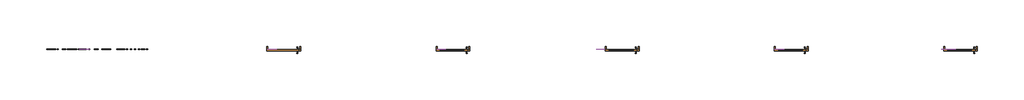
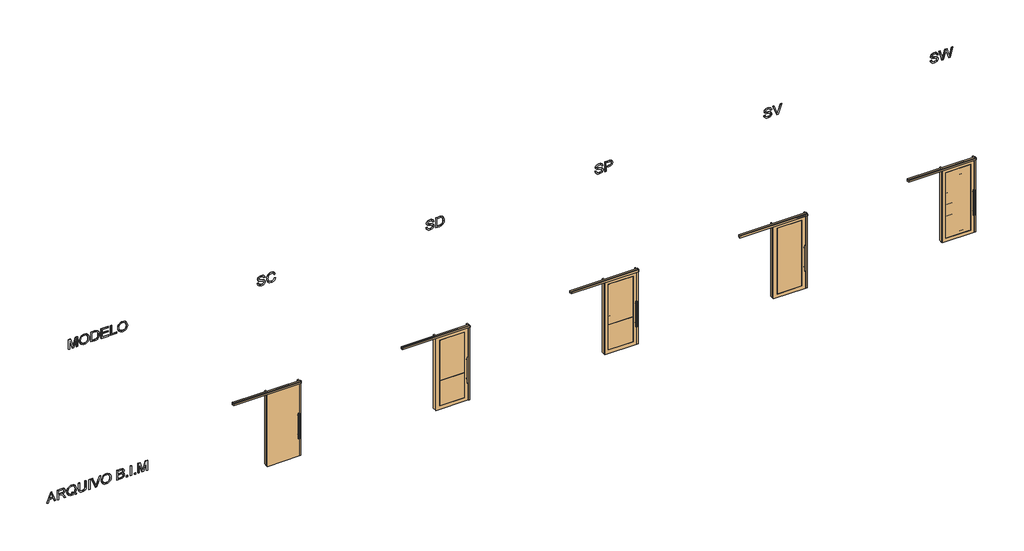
# One storey: 7 proxies, 5 doors.
"""IFC4 building model written with IfcOpenShell, lengths in millimetres."""

from ifc_helpers import new_model, si_unit, frame, origin, place, context, project, spatial, polyline, outline, extrude, transform, mapped, element, save
from components import sc_cab2c7cc, sd_dbddfbeb, sv_f2a23781, sw_5507271e, sw_ca81cf6f

model = new_model("IFC4")

# Units and contexts
model_context = context("Model", 3, world=origin())
ifc_project = project(units=[si_unit("LENGTHUNIT", "METRE", prefix="MILLI")], contexts=[model_context])

# Site, building, storey
site = spatial("IfcSite", under=ifc_project)
building = spatial("IfcBuilding", under=site)
storey = spatial("IfcBuildingStorey", under=building, Name="07 - Marelli - Planta Baixa - Porta de Correr (01 Folha)", Elevation=72000.0)

# Proxies
placement = place(None, origin())
element("IfcBuildingElementProxy", 1, Name="300mm Arial", ObjectType="300mm Arial", at=placement, inside=storey, context=model_context, shape_type="SweptSolid", body=[
    extrude(outline(polyline([(73100.0, -7636.3146377), (73100.0, -7596.5098058), (73194.1777908, -7562.076051), (73194.1777908, -7437.9526659), (73100.0, -7403.4453347), (73100.0, -7363.6405028), (73401.3689304, -7483.9379153), (73401.3689304, -7516.0172252), (73100.0, -7636.3146377)]), holes=[polyline([(73231.8489071, -7548.243688), (73312.415064, -7518.739552), (73363.6978141, -7499.9775703), (73305.9403409, -7478.8611437), (73231.8489071, -7451.7114525), (73231.8489071, -7548.243688)])]), frame((0.0, 8778.3159498, 0.0), z_axis=(0.0, 1.0, 0.0), x_axis=(0.0, 0.0, 1.0)), (0.0, 0.0, 1.0), 10.0),
    extrude(outline(polyline([(73100.0, -7323.3942126), (73100.0, -7285.7230963), (73231.8489071, -7285.7230963), (73231.8489071, -7240.2528817), (73230.5245319, -7218.4006911), (73223.350833, -7200.484838), (73203.816299, -7180.582422), (73162.4663628, -7152.2555084), (73100.0, -7113.0392877), (73100.0, -7069.2613303), (73181.6698029, -7119.5140108), (73220.4445652, -7150.0482164), (73236.5577966, -7171.4589486), (73246.5457928, -7134.3488523), (73254.5610217, -7119.9669655), (73264.5904046, -7108.3671864), (73289.2017101, -7093.0540983), (73318.8897871, -7087.9497357), (73342.7561316, -7091.0307474), (73364.4703663, -7100.2737825), (73381.9815493, -7114.6763626), (73393.2387384, -7133.2360093), (73399.3363824, -7158.629064), (73401.3689304, -7193.5318683), (73401.3689304, -7323.3942126), (73100.0, -7323.3942126)]), holes=[polyline([(73269.5200234, -7285.7230963), (73363.6978141, -7285.7230963), (73363.6978141, -7191.9131875), (73360.4420585, -7162.1055488), (73350.6747915, -7141.5501423), (73335.8675412, -7129.6031746), (73317.4918355, -7125.620852), (73304.1837044, -7127.7085823), (73291.9240369, -7133.9717732), (73281.7888879, -7144.254075), (73274.8543123, -7158.3991377), (73270.8535956, -7177.1887106), (73269.5200234, -7201.404543), (73269.5200234, -7285.7230963)])]), frame((0.0, 8778.3159498, 0.0), z_axis=(0.0, 1.0, 0.0), x_axis=(0.0, 0.0, 1.0)), (0.0, 0.0, 1.0), 10.0),
    extrude(outline(polyline([(73136.1260119, -6795.6307023), (73159.6520655, -6777.1814202), (73186.9673037, -6764.0664271), (73218.0349382, -6756.2305406), (73252.8181808, -6753.6185784), (73294.6463636, -6757.9227978), (73331.9863862, -6770.8354558), (73363.1827793, -6791.9610794), (73386.5800742, -6820.9041954), (73401.2033836, -6855.7702114), (73406.07782, -6894.6645354), (73401.3137481, -6933.2553567), (73387.0215326, -6967.9466288), (73363.6150407, -6996.93573), (73331.5081396, -7018.4200386), (73293.055274, -7031.7189727), (73250.6108888, -7036.1519507), (73208.2032918, -7031.7097756), (73170.3022493, -7018.3832504), (73138.6460036, -6996.8161684), (73114.9727972, -6967.6523232), (73100.2115321, -6932.8322924), (73095.2911105, -6894.2966534), (73099.5585416, -6855.9449554), (73112.360835, -6821.0881364), (73091.52032, -6790.1308665), (73077.1177399, -6759.063232), (73104.7088895, -6748.9096889), (73117.5295771, -6771.2953083), (73136.1260119, -6795.6307023)]), holes=[polyline([(73186.2315397, -6883.9223811), (73157.3895912, -6893.6344658), (73150.712533, -6873.2721974), (73140.6877487, -6853.9767867), (73134.8936072, -6873.6032912), (73132.9622268, -6894.5173826), (73134.8637168, -6916.2385151), (73140.568187, -6935.9316982), (73150.0756373, -6953.5969318), (73163.3860678, -6969.2342158), (73180.251158, -6982.0296115), (73200.4225876, -6991.1691798), (73223.9003567, -6996.6529208), (73250.6844652, -6998.4808344), (73278.1859436, -6996.6322274), (73302.0499888, -6991.0864063), (73322.2766007, -6981.8433712), (73338.8657795, -6968.903122), (73351.7899338, -6953.1577726), (73361.0214726, -6935.4994369), (73366.5603959, -6915.9281147), (73368.4067037, -6894.4438062), (73364.7554749, -6865.9605427), (73353.8017885, -6840.4019411), (73336.2354232, -6819.2027411), (73312.7461578, -6803.7976826), (73284.0605592, -6794.4166917), (73250.9051944, -6791.2896947), (73221.7321522, -6793.5015852), (73196.4586591, -6800.1372567), (73175.0847152, -6811.1967092), (73157.6103204, -6826.6799427), (73174.2569807, -6852.2477413), (73186.2315397, -6883.9223811)])]), frame((0.0, 8778.3159498, 0.0), z_axis=(0.0, 1.0, 0.0), x_axis=(0.0, 0.0, 1.0)), (0.0, 0.0, 1.0), 10.0),
    extrude(outline(polyline([(73401.3689304, -6499.3385434), (73228.8322747, -6499.3385434), (73181.6698029, -6504.1026152), (73164.9311721, -6510.057705), (73152.7542781, -6518.3948307), (73144.0952556, -6529.5278596), (73137.9102396, -6543.8706589), (73132.9622268, -6582.1855687), (73135.4638243, -6606.3554158), (73142.968617, -6626.4785609), (73155.0811317, -6641.9112106), (73171.4058953, -6652.0095714), (73194.9779341, -6657.5829836), (73228.8322747, -6659.4407877), (73401.3689304, -6659.4407877), (73401.3689304, -6697.111904), (73227.5078995, -6697.111904), (73184.7324205, -6694.2516215), (73152.0553023, -6685.6707739), (73127.6923172, -6670.4036711), (73109.8592375, -6647.4846228), (73098.9331422, -6616.904432), (73095.2911105, -6578.6539015), (73099.4757682, -6539.5480454), (73112.0297412, -6508.7563224), (73131.2515755, -6486.2235502), (73155.4398167, -6471.8945465), (73186.7925597, -6464.2242069), (73227.5078995, -6461.6674271), (73401.3689304, -6461.6674271), (73401.3689304, -6499.3385434)])), frame((0.0, 8778.3159498, 0.0), z_axis=(0.0, 1.0, 0.0), x_axis=(0.0, 0.0, 1.0)), (0.0, 0.0, 1.0), 10.0),
    extrude(outline(polyline([(-6353.3629677, 8778.3159498), (-6391.034084, 8778.3159498), (-6391.034084, 8788.3159498), (-6353.3629677, 8788.3159498), (-6353.3629677, 8778.3159498)])), frame((0.0, 0.0, 73100.0), z_axis=(0.0, 0.0, 1.0), x_axis=(1.0, 0.0, 0.0)), (0.0, 0.0, 1.0), 301.3689304),
    extrude(outline(polyline([(73100.0, -6188.9932922), (73100.0, -6150.0713771), (73401.3689304, -6035.2186183), (73401.3689304, -6075.5384849), (73184.2449769, -6156.0310655), (73135.3166715, -6172.0707205), (73184.2449769, -6188.3311046), (73401.3689304, -6268.602956), (73401.3689304, -6308.9228227), (73100.0, -6188.9932922)])), frame((0.0, 8778.3159498, 0.0), z_axis=(0.0, 1.0, 0.0), x_axis=(0.0, 0.0, 1.0)), (0.0, 0.0, 1.0), 10.0),
    extrude(outline(polyline([(73246.7113397, -6014.3229209), (73208.1665036, -6010.0187016), (73171.7002009, -5997.1060436), (73140.007167, -5975.8424642), (73115.7821376, -5946.485481), (73100.4138672, -5910.8377157), (73095.2911105, -5870.70179), (73099.9264236, -5832.892718), (73113.832363, -5797.7507904), (73136.7514113, -5767.7868019), (73168.4260511, -5745.5115471), (73206.8881137, -5731.6883811), (73250.1694304, -5727.0806591), (73292.8805301, -5731.4584548), (73330.8091638, -5744.5918421), (73362.4286213, -5766.0761506), (73386.2121922, -5795.5067102), (73401.1114131, -5830.9521404), (73406.07782, -5870.4810608), (73403.4336681, -5900.7715446), (73395.5012126, -5928.1465636), (73382.2804534, -5952.6061177), (73363.7713905, -5974.1502071), (73340.5902263, -5991.7257694), (73313.3531631, -6004.2797425), (73282.0602009, -6011.8121263), (73246.7113397, -6014.3229209)]), holes=[polyline([(73246.3434577, -5976.6518046), (73276.8799625, -5974.6882345), (73302.7121764, -5968.797524), (73323.8400992, -5958.9796733), (73340.263731, -5945.2346822), (73352.5762816, -5928.7673644), (73361.3709605, -5910.7825334), (73366.6477679, -5891.2801891), (73368.4067037, -5870.2603316), (73364.7554749, -5841.0964864), (73353.8017885, -5814.9676677), (73336.2078321, -5793.3086153), (73312.6357932, -5777.5540688), (73283.8122389, -5767.9523488), (73250.463736, -5764.7517754), (73223.9256486, -5766.6210758), (73200.5973316, -5772.228977), (73180.478785, -5781.5754789), (73163.5700088, -5794.6605816), (73150.1791041, -5810.642755), (73140.6141723, -5828.6804691), (73134.8752131, -5848.7737238), (73132.9622268, -5870.9225192), (73134.856819, -5892.6988341), (73140.5405959, -5912.557564), (73150.0135572, -5930.4987091), (73163.2757032, -5946.5222692), (73179.8349915, -5959.703941), (73199.19938, -5969.1194208), (73221.3688687, -5974.7687087), (73246.3434577, -5976.6518046)])]), frame((0.0, 8778.3159498, 0.0), z_axis=(0.0, 1.0, 0.0), x_axis=(0.0, 0.0, 1.0)), (0.0, 0.0, 1.0), 10.0),
    extrude(outline(polyline([(73100.0, -5557.5606357), (73100.0, -5443.4436408), (73105.1871361, -5395.1407348), (73111.6066769, -5377.10532), (73120.4910271, -5362.3624491), (73132.7598917, -5350.3235108), (73149.3329756, -5340.399894), (73168.8215242, -5333.7504269), (73189.8367832, -5331.5339379), (73215.055094, -5334.7804965), (73236.7049494, -5344.5201723), (73253.6643094, -5360.2931129), (73264.8111338, -5381.6394656), (73276.5557665, -5363.7695977), (73291.4825785, -5351.0684718), (73308.543106, -5343.4809057), (73326.6888854, -5340.951717), (73346.4073604, -5343.9591523), (73365.2429185, -5352.9814582), (73381.2549824, -5367.3104619), (73392.5029744, -5386.2379906), (73399.1524414, -5410.9320695), (73401.3689304, -5442.560724), (73401.3689304, -5557.5606357), (73100.0, -5557.5606357)]), holes=[polyline([(73278.9378025, -5519.8895194), (73363.6978141, -5519.8895194), (73363.6978141, -5456.3195106), (73359.7614768, -5407.9062401), (73354.1604734, -5395.4166463), (73345.230138, -5386.2012024), (73333.7890079, -5380.5174255), (73320.6556207, -5378.6228333), (73307.1267603, -5380.6553813), (73296.1178916, -5386.7530254), (73287.7577733, -5396.8605832), (73282.175164, -5410.9228724), (73278.9378025, -5451.0955863), (73278.9378025, -5519.8895194)]), polyline([(73137.6711163, -5519.8895194), (73241.2666861, -5519.8895194), (73241.2666861, -5446.3131204), (73240.0066903, -5419.4853259), (73236.2267028, -5399.776048), (73229.3381125, -5385.8609115), (73218.752308, -5376.4155413), (73205.2142506, -5371.007676), (73189.4689012, -5369.2050542), (73175.9124497, -5370.7409615), (73164.0850436, -5375.3486835), (73147.3464128, -5391.0204565), (73139.1426443, -5414.6752688), (73137.6711163, -5442.6343004), (73137.6711163, -5519.8895194)])]), frame((0.0, 8778.3159498, 0.0), z_axis=(0.0, 1.0, 0.0), x_axis=(0.0, 0.0, 1.0)), (0.0, 0.0, 1.0), 10.0),
    extrude(outline(polyline([(-5237.3561471, 8778.3159498), (-5275.0272634, 8778.3159498), (-5275.0272634, 8788.3159498), (-5237.3561471, 8788.3159498), (-5237.3561471, 8778.3159498)])), frame((0.0, 0.0, 73100.0), z_axis=(0.0, 0.0, 1.0), x_axis=(1.0, 0.0, 0.0)), (0.0, 0.0, 1.0), 37.6711163),
    extrude(outline(polyline([(-5119.6339087, 8778.3159498), (-5157.305025, 8778.3159498), (-5157.305025, 8788.3159498), (-5119.6339087, 8788.3159498), (-5119.6339087, 8778.3159498)])), frame((0.0, 0.0, 73100.0), z_axis=(0.0, 0.0, 1.0), x_axis=(1.0, 0.0, 0.0)), (0.0, 0.0, 1.0), 301.3689304),
    extrude(outline(polyline([(-5001.9116702, 8778.3159498), (-5039.5827865, 8778.3159498), (-5039.5827865, 8788.3159498), (-5001.9116702, 8788.3159498), (-5001.9116702, 8778.3159498)])), frame((0.0, 0.0, 73100.0), z_axis=(0.0, 0.0, 1.0), x_axis=(1.0, 0.0, 0.0)), (0.0, 0.0, 1.0), 37.6711163),
    extrude(outline(polyline([(73100.0, -4926.5694376), (73100.0, -4888.8983213), (73363.6978141, -4888.8983213), (73100.0, -4813.1882067), (73100.0, -4762.1261857), (73363.6978141, -4686.4160711), (73100.0, -4686.4160711), (73100.0, -4648.7449548), (73401.3689304, -4648.7449548), (73401.3689304, -4713.5657624), (73192.6326864, -4774.1927152), (73144.5872978, -4787.6571962), (73188.9538664, -4800.0916076), (73401.3689304, -4861.74863), (73401.3689304, -4926.5694376), (73100.0, -4926.5694376)])), frame((0.0, 8778.3159498, 0.0), z_axis=(0.0, 1.0, 0.0), x_axis=(0.0, 0.0, 1.0)), (0.0, 0.0, 1.0), 10.0),
])
element("IfcBuildingElementProxy", 2, Name="300mm Arial", ObjectType="300mm Arial", at=placement, inside=storey, context=model_context, shape_type="SweptSolid", body=[
    extrude(outline(polyline([(77700.0, -6993.7719449), (77700.0, -6956.1008286), (77963.6978141, -6956.1008286), (77700.0, -6880.390714), (77700.0, -6829.328693), (77963.6978141, -6753.6185784), (77700.0, -6753.6185784), (77700.0, -6715.9474621), (78001.3689304, -6715.9474621), (78001.3689304, -6780.7682697), (77792.6326864, -6841.3952225), (77744.5872978, -6854.8597035), (77788.9538664, -6867.2941149), (78001.3689304, -6928.9511373), (78001.3689304, -6993.7719449), (77700.0, -6993.7719449)])), frame((0.0, 8778.3159498, 0.0), z_axis=(0.0, 1.0, 0.0), x_axis=(0.0, 0.0, 1.0)), (0.0, 0.0, 1.0), 10.0),
    extrude(outline(polyline([(77846.7113397, -6664.1496772), (77808.1665036, -6659.8454579), (77771.7002009, -6646.9327998), (77740.007167, -6625.6692205), (77715.7821376, -6596.3122373), (77700.4138672, -6560.664472), (77695.2911105, -6520.5285463), (77699.9264236, -6482.7194742), (77713.832363, -6447.5775466), (77736.7514113, -6417.6135581), (77768.4260511, -6395.3383033), (77806.8881137, -6381.5151374), (77850.1694304, -6376.9074154), (77892.8805301, -6381.2852111), (77930.8091638, -6394.4185983), (77962.4286213, -6415.9029069), (77986.2121922, -6445.3334665), (78001.1114131, -6480.7788967), (78006.07782, -6520.3078171), (78003.4336681, -6550.5983009), (77995.5012126, -6577.9733198), (77982.2804534, -6602.432874), (77963.7713905, -6623.9769633), (77940.5902263, -6641.5525257), (77913.3531631, -6654.1064987), (77882.0602009, -6661.6388826), (77846.7113397, -6664.1496772)]), holes=[polyline([(77846.3434577, -6626.4785609), (77876.8799625, -6624.5149908), (77902.7121764, -6618.6242803), (77923.8400992, -6608.8064296), (77940.263731, -6595.0614385), (77952.5762816, -6578.5941207), (77961.3709605, -6560.6092897), (77966.6477679, -6541.1069454), (77968.4067037, -6520.0870879), (77964.7554749, -6490.9232427), (77953.8017885, -6464.794424), (77936.2078321, -6443.1353716), (77912.6357932, -6427.3808251), (77883.8122389, -6417.779105), (77850.463736, -6414.5785317), (77823.9256486, -6416.4478321), (77800.5973316, -6422.0557332), (77780.478785, -6431.4022352), (77763.5700088, -6444.4873379), (77750.1791041, -6460.4695113), (77740.6141723, -6478.5072254), (77734.8752131, -6498.6004801), (77732.9622268, -6520.7492755), (77734.856819, -6542.5255903), (77740.5405959, -6562.3843203), (77750.0135572, -6580.3254653), (77763.2757032, -6596.3490255), (77779.8349915, -6609.5306972), (77799.19938, -6618.9461771), (77821.3688687, -6624.5954649), (77846.3434577, -6626.4785609)])]), frame((0.0, 8778.3159498, 0.0), z_axis=(0.0, 1.0, 0.0), x_axis=(0.0, 0.0, 1.0)), (0.0, 0.0, 1.0), 10.0),
    extrude(outline(polyline([(77700.0, -6325.1096305), (77700.0, -6216.1429835), (77705.1503479, -6167.6929247), (77711.5055094, -6148.1491937), (77720.2702979, -6131.6772774), (77732.088507, -6117.3298796), (77747.6039302, -6104.1597042), (77767.2580258, -6092.7185741), (77791.4922522, -6083.5583124), (77819.9571216, -6077.5434418), (77852.303146, -6075.5384849), (77890.3789325, -6078.499935), (77923.9665587, -6087.3842852), (77952.5142015, -6102.2283237), (77975.470038, -6123.0688387), (77988.6586075, -6143.3391366), (77997.0279229, -6167.3618309), (78001.3689304, -6221.1461786), (78001.3689304, -6325.1096305), (77700.0, -6325.1096305)]), holes=[polyline([(77737.6711163, -6287.4385141), (77963.6978141, -6287.4385141), (77963.6978141, -6221.8083662), (77962.189498, -6190.06015), (77957.6645494, -6168.3919005), (77945.0829852, -6147.10073), (77924.2608643, -6129.2860444), (77893.9473879, -6117.228712), (77852.8917572, -6113.2096012), (77821.9068962, -6115.2605434), (77795.9068361, -6121.4133697), (77774.7996067, -6131.245016), (77758.4932372, -6144.332418), (77749.6824634, -6156.5093121), (77743.1157698, -6172.2914497), (77739.0322797, -6193.2055411), (77737.6711163, -6220.7782966), (77737.6711163, -6287.4385141)])]), frame((0.0, 8778.3159498, 0.0), z_axis=(0.0, 1.0, 0.0), x_axis=(0.0, 0.0, 1.0)), (0.0, 0.0, 1.0), 10.0),
    extrude(outline(polyline([(77700.0, -6023.7407), (77700.0, -5802.4228917), (77737.6711163, -5802.4228917), (77737.6711163, -5986.0695837), (77836.5577966, -5986.0695837), (77836.5577966, -5816.5495603), (77874.2289129, -5816.5495603), (77874.2289129, -5986.0695837), (77963.6978141, -5986.0695837), (77963.6978141, -5807.1317812), (78001.3689304, -5807.1317812), (78001.3689304, -6023.7407), (77700.0, -6023.7407)])), frame((0.0, 8778.3159498, 0.0), z_axis=(0.0, 1.0, 0.0), x_axis=(0.0, 0.0, 1.0)), (0.0, 0.0, 1.0), 10.0),
    extrude(outline(polyline([(77700.0, -5745.9162172), (77700.0, -5557.5606357), (77737.6711163, -5557.5606357), (77737.6711163, -5708.2451009), (78001.3689304, -5708.2451009), (78001.3689304, -5745.9162172), (77700.0, -5745.9162172)])), frame((0.0, 8778.3159498, 0.0), z_axis=(0.0, 1.0, 0.0), x_axis=(0.0, 0.0, 1.0)), (0.0, 0.0, 1.0), 10.0),
    extrude(outline(polyline([(77846.7113397, -5529.3072985), (77808.1665036, -5525.0030791), (77771.7002009, -5512.0904211), (77740.007167, -5490.8268418), (77715.7821376, -5461.4698586), (77700.4138672, -5425.8220932), (77695.2911105, -5385.6861676), (77699.9264236, -5347.8770955), (77713.832363, -5312.7351679), (77736.7514113, -5282.7711794), (77768.4260511, -5260.4959246), (77806.8881137, -5246.6727586), (77850.1694304, -5242.0650367), (77892.8805301, -5246.4428324), (77930.8091638, -5259.5762196), (77962.4286213, -5281.0605281), (77986.2121922, -5310.4910878), (78001.1114131, -5345.936518), (78006.07782, -5385.4654384), (78003.4336681, -5415.7559222), (77995.5012126, -5443.1309411), (77982.2804534, -5467.5904953), (77963.7713905, -5489.1345846), (77940.5902263, -5506.7101469), (77913.3531631, -5519.26412), (77882.0602009, -5526.7965039), (77846.7113397, -5529.3072985)]), holes=[polyline([(77846.3434577, -5491.6361822), (77876.8799625, -5489.672612), (77902.7121764, -5483.7819016), (77923.8400992, -5473.9640508), (77940.263731, -5460.2190598), (77952.5762816, -5443.751742), (77961.3709605, -5425.7669109), (77966.6477679, -5406.2645667), (77968.4067037, -5385.2447092), (77964.7554749, -5356.080864), (77953.8017885, -5329.9520453), (77936.2078321, -5308.2929928), (77912.6357932, -5292.5384464), (77883.8122389, -5282.9367263), (77850.463736, -5279.736153), (77823.9256486, -5281.6054533), (77800.5973316, -5287.2133545), (77780.478785, -5296.5598565), (77763.5700088, -5309.6449592), (77750.1791041, -5325.6271326), (77740.6141723, -5343.6648467), (77734.8752131, -5363.7581014), (77732.9622268, -5385.9068968), (77734.856819, -5407.6832116), (77740.5405959, -5427.5419416), (77750.0135572, -5445.4830866), (77763.2757032, -5461.5066468), (77779.8349915, -5474.6883185), (77799.19938, -5484.1037983), (77821.3688687, -5489.7530862), (77846.3434577, -5491.6361822)])]), frame((0.0, 8778.3159498, 0.0), z_axis=(0.0, 1.0, 0.0), x_axis=(0.0, 0.0, 1.0)), (0.0, 0.0, 1.0), 10.0),
])
element("IfcBuildingElementProxy", 3, Name="300mm Arial", ObjectType="300mm Arial", at=placement, inside=storey, context=model_context, shape_type="SweptSolid", body=[
    extrude(outline(polyline([(77803.5955698, -1395.7429735), (77773.1717288, -1391.2732073), (77746.0588258, -1379.4825893), (77723.8019651, -1361.1160807), (77707.9462511, -1336.9186425), (77698.4548956, -1306.5407867), (77695.2911105, -1269.6330256), (77698.2249694, -1239.5678695), (77707.0265461, -1212.6481045), (77721.1164265, -1190.2624851), (77739.9151965, -1173.7997658), (77761.7581899, -1163.6738139), (77784.9807409, -1160.2984966), (77807.6974541, -1163.2323555), (77827.5814759, -1172.0339323), (77844.4488654, -1187.0159265), (77858.1156815, -1208.491038), (77866.9264553, -1233.6173783), (77877.0248161, -1275.1512555), (77887.6566057, -1315.3975458), (77898.0676662, -1336.6611251), (77909.7111314, -1345.6558399), (77924.1872879, -1348.6540781), (77941.1650419, -1344.4234352), (77955.4572575, -1331.7315064), (77965.1693421, -1309.7873454), (77968.4067037, -1277.8000059), (77965.1325539, -1246.5484304), (77955.3101047, -1224.0156582), (77939.0865087, -1209.594684), (77916.6089188, -1202.6785025), (77916.6089188, -1165.0073862), (77941.5697121, -1169.2564232), (77963.7713905, -1179.9433952), (77982.0735198, -1196.8291787), (77995.3356657, -1219.6746506), (78003.3922814, -1247.4865295), (78006.07782, -1279.2715339), (78003.5118431, -1308.610123), (77995.8139123, -1335.1160207), (77983.1587717, -1357.1981375), (77965.7211651, -1373.2653836), (77945.1473645, -1383.0602417), (77923.0836419, -1386.3251945), (77903.3467728, -1383.6856411), (77885.6332548, -1375.7669812), (77870.2741815, -1362.4772441), (77857.6006467, -1343.7244594), (77848.5415526, -1320.6858495), (77839.022606, -1284.6793992), (77824.63842, -1229.8281937), (77816.8301246, -1213.7517505), (77807.5319072, -1204.2236068), (77796.6334031, -1199.5331114), (77784.0242477, -1197.9696129), (77771.0839985, -1200.0573432), (77758.7507546, -1206.3205342), (77748.0086004, -1216.8511563), (77739.8416201, -1231.7411801), (77734.6820751, -1250.1168857), (77732.9622268, -1271.1045536), (77735.2338981, -1294.9433068), (77742.048912, -1316.2804626), (77752.551943, -1333.7364632), (77765.8876653, -1345.9317514), (77782.6906755, -1353.7492438), (77803.5955698, -1358.0718572), (77803.5955698, -1395.7429735)])), frame((0.0, 8778.3159498, 0.0), z_axis=(0.0, 1.0, 0.0), x_axis=(0.0, 0.0, 1.0)), (0.0, 0.0, 1.0), 10.0),
    extrude(outline(polyline([(77807.127237, -891.8917929), (77774.863986, -904.077884), (77751.6506321, -923.8607383), (77737.6343281, -950.0631334), (77732.9622268, -981.507847), (77736.3927264, -1008.4827943), (77746.6842252, -1033.4895729), (77763.9102996, -1054.348482), (77788.144526, -1068.8798208), (77818.2372732, -1077.4054861), (77853.03891, -1080.2473745), (77881.4577941, -1077.8469444), (77909.0305497, -1070.6456544), (77933.4211259, -1057.5214642), (77952.2934723, -1037.3523338), (77964.3783958, -1010.7728597), (77968.4067037, -978.4176382), (77964.773869, -950.348242), (77953.8753649, -927.5027701), (77935.0306097, -909.6604933), (77907.5590217, -896.6006825), (77916.5353424, -858.9295662), (77954.3536115, -875.5670294), (77969.6758966, -887.3691437), (77982.6069487, -901.493513), (77992.8754549, -917.673423), (78000.2101022, -935.6421592), (78006.07782, -976.9461102), (78001.5436744, -1014.8011675), (77987.9412376, -1049.3452869), (77965.6016035, -1078.4723438), (77934.8558657, -1100.076214), (77896.9088379, -1113.4579216), (77852.9653336, -1117.9184908), (77811.3026976, -1113.9729564), (77772.3991767, -1102.1363532), (77739.3081912, -1082.748972), (77715.0831618, -1056.1511038), (77700.2391233, -1021.4506346), (77695.2911105, -977.7554506), (77696.9258861, -955.333043), (77701.8302129, -934.7132572), (77710.004091, -915.8960931), (77721.4475203, -898.8815508), (77736.004151, -884.0053227), (77753.5176332, -871.6031009), (77773.987967, -861.6748856), (77797.4151523, -854.2206766), (77807.127237, -891.8917929)])), frame((0.0, 8778.3159498, 0.0), z_axis=(0.0, 1.0, 0.0), x_axis=(0.0, 0.0, 1.0)), (0.0, 0.0, 1.0), 10.0),
])
element("IfcBuildingElementProxy", 4, Name="300mm Arial", ObjectType="300mm Arial", at=placement, inside=storey, context=model_context, shape_type="SweptSolid", body=[
    extrude(outline(polyline([(77803.5955698, 3604.2570265), (77773.1717288, 3608.7267927), (77746.0588258, 3620.5174107), (77723.8019651, 3638.8839193), (77707.9462511, 3663.0813575), (77698.4548956, 3693.4592133), (77695.2911105, 3730.3669744), (77698.2249694, 3760.4321305), (77707.0265461, 3787.3518955), (77721.1164265, 3809.7375149), (77739.9151965, 3826.2002342), (77761.7581899, 3836.3261861), (77784.9807409, 3839.7015034), (77807.6974541, 3836.7676445), (77827.5814759, 3827.9660677), (77844.4488654, 3812.9840735), (77858.1156815, 3791.508962), (77866.9264553, 3766.3826217), (77877.0248161, 3724.8487445), (77887.6566057, 3684.6024542), (77898.0676662, 3663.3388749), (77909.7111314, 3654.3441601), (77924.1872879, 3651.3459219), (77941.1650419, 3655.5765648), (77955.4572575, 3668.2684936), (77965.1693421, 3690.2126546), (77968.4067037, 3722.1999941), (77965.1325539, 3753.4515696), (77955.3101047, 3775.9843418), (77939.0865087, 3790.405316), (77916.6089188, 3797.3214975), (77916.6089188, 3834.9926138), (77941.5697121, 3830.7435768), (77963.7713905, 3820.0566048), (77982.0735198, 3803.1708213), (77995.3356657, 3780.3253494), (78003.3922814, 3752.5134705), (78006.07782, 3720.7284661), (78003.5118431, 3691.389877), (77995.8139123, 3664.8839793), (77983.1587717, 3642.8018625), (77965.7211651, 3626.7346164), (77945.1473645, 3616.9397583), (77923.0836419, 3613.6748055), (77903.3467728, 3616.3143589), (77885.6332548, 3624.2330188), (77870.2741815, 3637.5227559), (77857.6006467, 3656.2755406), (77848.5415526, 3679.3141505), (77839.022606, 3715.3206008), (77824.63842, 3770.1718063), (77816.8301246, 3786.2482495), (77807.5319072, 3795.7763932), (77796.6334031, 3800.4668886), (77784.0242477, 3802.0303871), (77771.0839985, 3799.9426568), (77758.7507546, 3793.6794658), (77748.0086004, 3783.1488437), (77739.8416201, 3768.2588199), (77734.6820751, 3749.8831143), (77732.9622268, 3728.8954464), (77735.2338981, 3705.0566932), (77742.048912, 3683.7195374), (77752.551943, 3666.2635368), (77765.8876653, 3654.0682486), (77782.6906755, 3646.2507562), (77803.5955698, 3641.9281428), (77803.5955698, 3604.2570265)])), frame((0.0, 8778.3159498, 0.0), z_axis=(0.0, 1.0, 0.0), x_axis=(0.0, 0.0, 1.0)), (0.0, 0.0, 1.0), 10.0),
    extrude(outline(polyline([(77700.0, 3896.2081778), (77700.0, 4005.1748248), (77705.1503479, 4053.6248836), (77711.5055094, 4073.1686146), (77720.2702979, 4089.6405309), (77732.088507, 4103.9879287), (77747.6039302, 4117.1581041), (77767.2580258, 4128.5992342), (77791.4922522, 4137.7594959), (77819.9571216, 4143.7743665), (77852.303146, 4145.7793234), (77890.3789325, 4142.8178733), (77923.9665587, 4133.9335231), (77952.5142015, 4119.0894846), (77975.470038, 4098.2489696), (77988.6586075, 4077.9786717), (77997.0279229, 4053.9559774), (78001.3689304, 4000.1716297), (78001.3689304, 3896.2081778), (77700.0, 3896.2081778)]), holes=[polyline([(77737.6711163, 3933.8792942), (77963.6978141, 3933.8792942), (77963.6978141, 3999.5094421), (77962.189498, 4031.2576583), (77957.6645494, 4052.9259078), (77945.0829852, 4074.2170783), (77924.2608643, 4092.0317639), (77893.9473879, 4104.0890963), (77852.8917572, 4108.1082071), (77821.9068962, 4106.0572649), (77795.9068361, 4099.9044386), (77774.7996067, 4090.0727923), (77758.4932372, 4076.9853903), (77749.6824634, 4064.8084962), (77743.1157698, 4049.0263586), (77739.0322797, 4028.1122672), (77737.6711163, 4000.5395117), (77737.6711163, 3933.8792942)])]), frame((0.0, 8778.3159498, 0.0), z_axis=(0.0, 1.0, 0.0), x_axis=(0.0, 0.0, 1.0)), (0.0, 0.0, 1.0), 10.0),
])
element("IfcBuildingElementProxy", 5, Name="300mm Arial", ObjectType="300mm Arial", at=placement, inside=storey, context=model_context, shape_type="SweptSolid", body=[
    extrude(outline(polyline([(77803.5955698, 8616.0292503), (77773.1717288, 8620.4990166), (77746.0588258, 8632.2896345), (77723.8019651, 8650.6561431), (77707.9462511, 8674.8535813), (77698.4548956, 8705.2314371), (77695.2911105, 8742.1391983), (77698.2249694, 8772.2043543), (77707.0265461, 8799.1241193), (77721.1164265, 8821.5097387), (77739.9151965, 8837.972458), (77761.7581899, 8848.0984099), (77784.9807409, 8851.4737272), (77807.6974541, 8848.5398683), (77827.5814759, 8839.7382916), (77844.4488654, 8824.7562973), (77858.1156815, 8803.2811859), (77866.9264553, 8778.1548456), (77877.0248161, 8736.6209683), (77887.6566057, 8696.3746781), (77898.0676662, 8675.1110987), (77909.7111314, 8666.116384), (77924.1872879, 8663.1181457), (77941.1650419, 8667.3487886), (77955.4572575, 8680.0407175), (77965.1693421, 8701.9848785), (77968.4067037, 8733.972218), (77965.1325539, 8765.2237935), (77955.3101047, 8787.7565657), (77939.0865087, 8802.1775399), (77916.6089188, 8809.0937214), (77916.6089188, 8846.7648377), (77941.5697121, 8842.5158006), (77963.7713905, 8831.8288287), (77982.0735198, 8814.9430451), (77995.3356657, 8792.0975732), (78003.3922814, 8764.2856944), (78006.07782, 8732.50069), (78003.5118431, 8703.1621009), (77995.8139123, 8676.6562031), (77983.1587717, 8654.5740864), (77965.7211651, 8638.5068402), (77945.1473645, 8628.7119821), (77923.0836419, 8625.4470294), (77903.3467728, 8628.0865827), (77885.6332548, 8636.0052427), (77870.2741815, 8649.2949797), (77857.6006467, 8668.0477644), (77848.5415526, 8691.0863744), (77839.022606, 8727.0928247), (77824.63842, 8781.9440301), (77816.8301246, 8798.0204733), (77807.5319072, 8807.548617), (77796.6334031, 8812.2391124), (77784.0242477, 8813.8026109), (77771.0839985, 8811.7148806), (77758.7507546, 8805.4516896), (77748.0086004, 8794.9210675), (77739.8416201, 8780.0310438), (77734.6820751, 8761.6553381), (77732.9622268, 8740.6676703), (77735.2338981, 8716.828917), (77742.048912, 8695.4917613), (77752.551943, 8678.0357606), (77765.8876653, 8665.8404725), (77782.6906755, 8658.0229801), (77803.5955698, 8653.7003666), (77803.5955698, 8616.0292503)])), frame((0.0, 8778.3159498, 0.0), z_axis=(0.0, 1.0, 0.0), x_axis=(0.0, 0.0, 1.0)), (0.0, 0.0, 1.0), 10.0),
    extrude(outline(polyline([(77700.0, 8907.9804017), (77700.0, 8945.651518), (77822.431128, 8945.651518), (77822.431128, 9022.2445494), (77824.095794, 9051.4428835), (77829.0897921, 9075.7621826), (77837.4131222, 9095.2024468), (77849.0657844, 9109.763676), (77863.1234752, 9120.3701738), (77878.661891, 9127.9462437), (77895.6810318, 9132.4918856), (77914.1808976, 9134.0070995), (77935.637615, 9131.7630194), (77955.2733165, 9125.0307788), (77971.9199767, 9114.6105213), (77984.4095705, 9101.3023902), (77993.1375708, 9084.7752915), (77998.4994509, 9064.6981316), (78001.3689304, 9019.6693754), (78001.3689304, 8907.9804017), (77700.0, 8907.9804017)]), holes=[polyline([(77860.1022443, 8945.651518), (77963.6978141, 8945.651518), (77963.6978141, 9023.5689246), (77961.1226402, 9061.2400409), (77954.7950699, 9075.467877), (77944.0529156, 9086.6606867), (77929.7790942, 9093.9171591), (77912.8565224, 9096.3359832), (77890.5812676, 9092.234099), (77873.9346073, 9079.9284462), (77863.5603351, 9057.8555265), (77860.1022443, 9024.4518414), (77860.1022443, 8945.651518)])]), frame((0.0, 8778.3159498, 0.0), z_axis=(0.0, 1.0, 0.0), x_axis=(0.0, 0.0, 1.0)), (0.0, 0.0, 1.0), 10.0),
])
element("IfcBuildingElementProxy", 6, Name="300mm Arial", ObjectType="300mm Arial", at=placement, inside=storey, context=model_context, shape_type="SweptSolid", body=[
    extrude(outline(polyline([(77803.5955698, 13616.0292503), (77773.1717288, 13620.4990166), (77746.0588258, 13632.2896345), (77723.8019651, 13650.6561431), (77707.9462511, 13674.8535813), (77698.4548956, 13705.2314371), (77695.2911105, 13742.1391983), (77698.2249694, 13772.2043543), (77707.0265461, 13799.1241193), (77721.1164265, 13821.5097387), (77739.9151965, 13837.972458), (77761.7581899, 13848.0984099), (77784.9807409, 13851.4737272), (77807.6974541, 13848.5398683), (77827.5814759, 13839.7382916), (77844.4488654, 13824.7562973), (77858.1156815, 13803.2811859), (77866.9264553, 13778.1548456), (77877.0248161, 13736.6209683), (77887.6566057, 13696.3746781), (77898.0676662, 13675.1110987), (77909.7111314, 13666.116384), (77924.1872879, 13663.1181457), (77941.1650419, 13667.3487886), (77955.4572575, 13680.0407175), (77965.1693421, 13701.9848785), (77968.4067037, 13733.972218), (77965.1325539, 13765.2237935), (77955.3101047, 13787.7565657), (77939.0865087, 13802.1775399), (77916.6089188, 13809.0937214), (77916.6089188, 13846.7648377), (77941.5697121, 13842.5158006), (77963.7713905, 13831.8288287), (77982.0735198, 13814.9430451), (77995.3356657, 13792.0975732), (78003.3922814, 13764.2856944), (78006.07782, 13732.50069), (78003.5118431, 13703.1621009), (77995.8139123, 13676.6562031), (77983.1587717, 13654.5740864), (77965.7211651, 13638.5068402), (77945.1473645, 13628.7119821), (77923.0836419, 13625.4470294), (77903.3467728, 13628.0865827), (77885.6332548, 13636.0052427), (77870.2741815, 13649.2949797), (77857.6006467, 13668.0477644), (77848.5415526, 13691.0863744), (77839.022606, 13727.0928247), (77824.63842, 13781.9440301), (77816.8301246, 13798.0204733), (77807.5319072, 13807.548617), (77796.6334031, 13812.2391124), (77784.0242477, 13813.8026109), (77771.0839985, 13811.7148806), (77758.7507546, 13805.4516896), (77748.0086004, 13794.9210675), (77739.8416201, 13780.0310438), (77734.6820751, 13761.6553381), (77732.9622268, 13740.6676703), (77735.2338981, 13716.828917), (77742.048912, 13695.4917613), (77752.551943, 13678.0357606), (77765.8876653, 13665.8404725), (77782.6906755, 13658.0229801), (77803.5955698, 13653.7003666), (77803.5955698, 13616.0292503)])), frame((0.0, 8778.3159498, 0.0), z_axis=(0.0, 1.0, 0.0), x_axis=(0.0, 0.0, 1.0)), (0.0, 0.0, 1.0), 10.0),
    extrude(outline(polyline([(77700.0, 13997.0078445), (77700.0, 14035.9297596), (78001.3689304, 14150.7825185), (78001.3689304, 14110.4626518), (77784.2449769, 14029.9700713), (77735.3166715, 14013.9304163), (77784.2449769, 13997.6700321), (78001.3689304, 13917.3981808), (78001.3689304, 13877.0783141), (77700.0, 13997.0078445)])), frame((0.0, 8778.3159498, 0.0), z_axis=(0.0, 1.0, 0.0), x_axis=(0.0, 0.0, 1.0)), (0.0, 0.0, 1.0), 10.0),
])
element("IfcBuildingElementProxy", 7, Name="300mm Arial", ObjectType="300mm Arial", at=placement, inside=storey, context=model_context, shape_type="SweptSolid", body=[
    extrude(outline(polyline([(77803.5955698, 18545.3959072), (77773.1717288, 18549.8656735), (77746.0588258, 18561.6562914), (77723.8019651, 18580.0228), (77707.9462511, 18604.2202383), (77698.4548956, 18634.598094), (77695.2911105, 18671.5058552), (77698.2249694, 18701.5710112), (77707.0265461, 18728.4907762), (77721.1164265, 18750.8763956), (77739.9151965, 18767.3391149), (77761.7581899, 18777.4650669), (77784.9807409, 18780.8403842), (77807.6974541, 18777.9065252), (77827.5814759, 18769.1049485), (77844.4488654, 18754.1229543), (77858.1156815, 18732.6478428), (77866.9264553, 18707.5215025), (77877.0248161, 18665.9876253), (77887.6566057, 18625.741335), (77898.0676662, 18604.4777557), (77909.7111314, 18595.4830409), (77924.1872879, 18592.4848026), (77941.1650419, 18596.7154456), (77955.4572575, 18609.4073744), (77965.1693421, 18631.3515354), (77968.4067037, 18663.3388749), (77965.1325539, 18694.5904504), (77955.3101047, 18717.1232226), (77939.0865087, 18731.5441968), (77916.6089188, 18738.4603783), (77916.6089188, 18776.1314946), (77941.5697121, 18771.8824576), (77963.7713905, 18761.1954856), (77982.0735198, 18744.309702), (77995.3356657, 18721.4642301), (78003.3922814, 18693.6523513), (78006.07782, 18661.8673469), (78003.5118431, 18632.5287578), (77995.8139123, 18606.02286), (77983.1587717, 18583.9407433), (77965.7211651, 18567.8734971), (77945.1473645, 18558.078639), (77923.0836419, 18554.8136863), (77903.3467728, 18557.4532396), (77885.6332548, 18565.3718996), (77870.2741815, 18578.6616367), (77857.6006467, 18597.4144214), (77848.5415526, 18620.4530313), (77839.022606, 18656.4594816), (77824.63842, 18711.3106871), (77816.8301246, 18727.3871303), (77807.5319072, 18736.9152739), (77796.6334031, 18741.6057694), (77784.0242477, 18743.1692679), (77771.0839985, 18741.0815375), (77758.7507546, 18734.8183466), (77748.0086004, 18724.2877244), (77739.8416201, 18709.3977007), (77734.6820751, 18691.021995), (77732.9622268, 18670.0343272), (77735.2338981, 18646.1955739), (77742.048912, 18624.8584182), (77752.551943, 18607.4024175), (77765.8876653, 18595.2071294), (77782.6906755, 18587.389637), (77803.5955698, 18583.0670235), (77803.5955698, 18545.3959072)])), frame((0.0, 8778.3159498, 0.0), z_axis=(0.0, 1.0, 0.0), x_axis=(0.0, 0.0, 1.0)), (0.0, 0.0, 1.0), 10.0),
    extrude(outline(polyline([(77700.0, 18891.2785591), (77700.0, 18936.7487737), (77925.879545, 19002.5996508), (77964.9486129, 19013.9304163), (77932.501421, 19024.010383), (77700.0, 19096.2624068), (77700.0, 19136.5086971), (78001.3689304, 19218.7671112), (78001.3689304, 19179.9187725), (77801.5354307, 19131.7998076), (77742.1592766, 19117.5259861), (77797.4887287, 19103.8223818), (77852.671028, 19085.225947), (78001.3689304, 19041.8158715), (78001.3689304, 18985.8242319), (77796.2379299, 18926.0801959), (77742.1592766, 18910.3348465), (77803.3012642, 18895.6195667), (78001.3689304, 18847.9420601), (78001.3689304, 18809.0937214), (77700.0, 18891.2785591)])), frame((0.0, 8778.3159498, 0.0), z_axis=(0.0, 1.0, 0.0), x_axis=(0.0, 0.0, 1.0)), (0.0, 0.0, 1.0), 10.0),
])

# Doors
sc_shape = sc_cab2c7cc(model_context)
element("IfcDoor", 8, ObjectType="Mobiliário_Mobiliário de Escritório_Porta Simples de Correr - SC_Marelli : SC", at=placement, inside=storey, context=model_context, shape_type="MappedRepresentation", body=[
    mapped(sc_shape, transform((-624.9818251, 8888.3159498, 72000.0), x_axis=(1.0, 0.0, 0.0), y_axis=(0.0, 1.0, 0.0), z_axis=(0.0, 0.0, 1.0))),
])
sd_shape = sd_dbddfbeb(model_context)
element("IfcDoor", 9, ObjectType="Mobiliário_Mobiliário de Escritório_Porta Simples de Correr Mista Vidro Duplo- SD_Marelli : SD", at=placement, inside=storey, context=model_context, shape_type="MappedRepresentation", body=[
    mapped(sd_shape, transform((4375.0181749, 8888.3159498, 72000.0), x_axis=(1.0, 0.0, 0.0), y_axis=(0.0, 1.0, 0.0), z_axis=(0.0, 0.0, 1.0))),
])
sv_shape = sv_f2a23781(model_context)
element("IfcDoor", 10, ObjectType="Mobiliário_Mobiliário de Escritório_Porta Simples de Correr com Vidro Duplo - SV_Marelli : SV", at=placement, inside=storey, context=model_context, shape_type="MappedRepresentation", body=[
    mapped(sv_shape, transform((14375.0181749, 8888.3159498, 72000.0), x_axis=(1.0, 0.0, 0.0), y_axis=(0.0, 1.0, 0.0), z_axis=(0.0, 0.0, 1.0))),
])
sw_shape = sw_5507271e(model_context)
element("IfcDoor", 11, ObjectType="Mobiliário_Mobiliário de Escritório_Porta Simples de Correr com Vidro Duplo e Persiana - SW_Marelli : SW", at=placement, inside=storey, context=model_context, shape_type="MappedRepresentation", body=[
    mapped(sw_shape, transform((19375.0181749, 8888.3159498, 72000.0), x_axis=(1.0, 0.0, 0.0), y_axis=(0.0, 1.0, 0.0), z_axis=(0.0, 0.0, 1.0))),
])
sw_2_shape = sw_ca81cf6f(model_context)
element("IfcDoor", 12, ObjectType="Mobiliário_Mobiliário de Escritório_Porta Simples de Correr Mista Vidro Duplo com Persiana - SW_Marelli : SW", at=placement, inside=storey, context=model_context, shape_type="MappedRepresentation", body=[
    mapped(sw_2_shape, transform((9375.0181749, 8888.3159498, 72000.0), x_axis=(1.0, 0.0, 0.0), y_axis=(0.0, 1.0, 0.0), z_axis=(0.0, 0.0, 1.0))),
])

save(model, "model.ifc")
